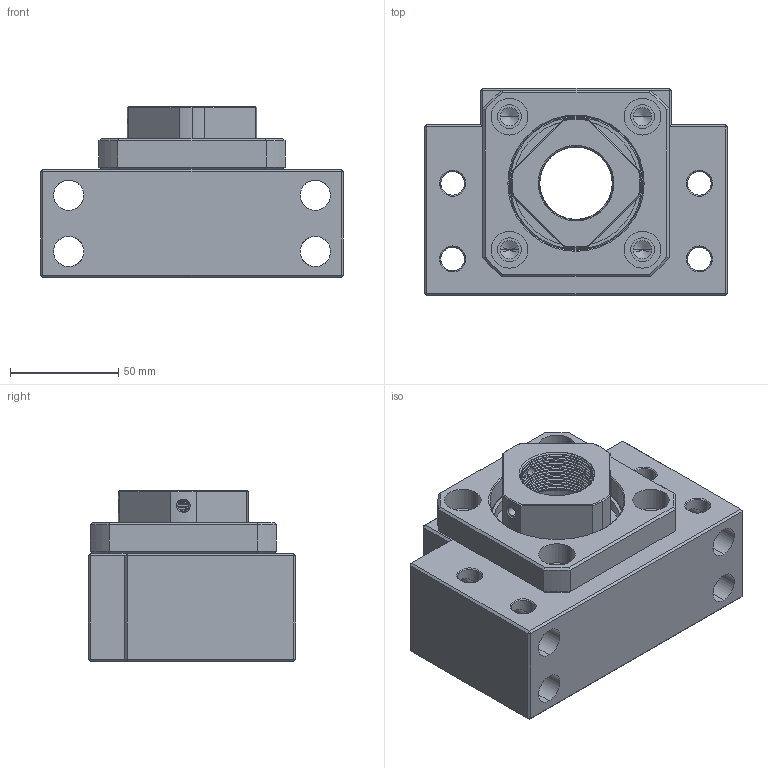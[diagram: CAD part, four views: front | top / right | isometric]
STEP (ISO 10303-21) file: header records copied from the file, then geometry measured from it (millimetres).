
FILE_DESCRIPTION (( 'STEP AP203' ), '1' );
FILE_NAME ('1BK35²Õ¦X.STEP', '2010-07-01T23:53:32', ( '' ), ( '' ), 'SwSTEP 2.0', 'SolidWorks 2008', '' );
FILE_SCHEMA (( 'CONFIG_CONTROL_DESIGN' ));
Length unit declared in the file: millimetre
Products named in the file (1): 1BK35組合
Bounding box: 140 x 96 x 79 mm (x, y, z)
Volume: 541471.4 mm3; surface area: 159257.2 mm2
Topology: 39 solids, 39 shells, 503 faces, 1254 edges, 766 vertices
Faces by surface type: cylinder 163, plane 103, torus 88, cone 75, sphere 56, bspline 18
Entity records: 24889 total; most frequent: CARTESIAN_POINT 13813, DIRECTION 2377, ORIENTED_EDGE 2212, EDGE_CURVE 1106, AXIS2_PLACEMENT_3D 1011, VERTEX_POINT 682, EDGE_LOOP 570, CIRCLE 525
